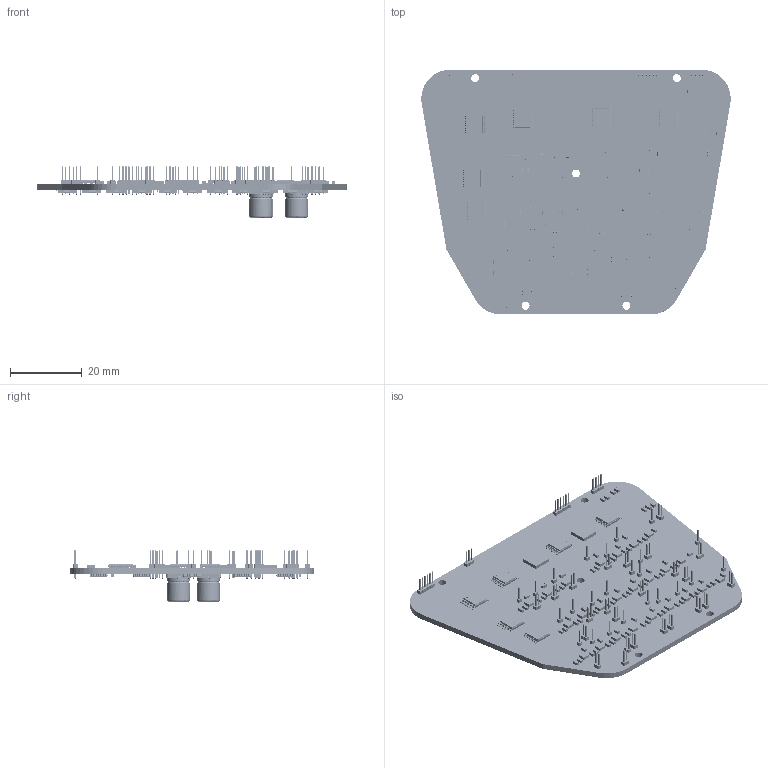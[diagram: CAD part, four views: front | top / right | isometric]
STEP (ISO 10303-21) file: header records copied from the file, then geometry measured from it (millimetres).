
FILE_DESCRIPTION(('KiCad electronic assembly'),'2;1');
FILE_NAME('Hand_Board.step','2026-09-02T08:43:39',('Pcbnew'),('Kicad'), 'Open CASCADE STEP processor 7.8','KiCad to STEP converter','Unknown' );
FILE_SCHEMA(('AUTOMOTIVE_DESIGN { 1 0 10303 214 1 1 1 1 }'));
Length unit declared in the file: millimetre
Products named in the file (24): Hand_Board 1; C_0603_1608Metric; PinHeader_1x02_P1.00mm_Vertical; PinHeader_1x02_P100mm_Vertical; PinHeader_1x01_P1.00mm_Vertical; PinHeader_1x01_P100mm_Vertical; DRV8231A; DSG0008A_ASM; PinHeader_1x06_P1.00mm_Vertical; PinHeader_1x06_P100mm_Vertical; TSSOP-16_4.4x5mm_P0.65mm; TSSOP_16_44x5mm_P065mm; RHB0032D; RHB0032D_ASM; PinHeader_1x03_P1.00mm_Vertical; PinHeader_1x03_P100mm_Vertical; PinHeader_1x04_P1.00mm_Vertical; PinHeader_1x04_P100mm_Vertical; TSSOP-14_4.4x5mm_P0.65mm; TSSOP_14_44x5mm_P065mm; CP_Elec_6.3x7.7; CP_Elec_63x77; _autosave-Hand_Board_PCB
Assembly tree (245 placements, depth 3):
  Hand_Board 1
    C_0603_1608Metric  x123
      C_0603_1608Metric
    PinHeader_1x02_P1.00mm_Vertical  x24
      PinHeader_1x02_P100mm_Vertical
    PinHeader_1x01_P1.00mm_Vertical  x24
      PinHeader_1x01_P100mm_Vertical
    DRV8231A  x24
      DSG0008A_ASM
    PinHeader_1x06_P1.00mm_Vertical  x2
      PinHeader_1x06_P100mm_Vertical
    TSSOP-16_4.4x5mm_P0.65mm  x6
      TSSOP_16_44x5mm_P065mm
    RHB0032D  x2
      RHB0032D_ASM
    PinHeader_1x03_P1.00mm_Vertical
      PinHeader_1x03_P100mm_Vertical
    PinHeader_1x04_P1.00mm_Vertical
      PinHeader_1x04_P100mm_Vertical
    TSSOP-14_4.4x5mm_P0.65mm  x22
      TSSOP_14_44x5mm_P065mm
    CP_Elec_6.3x7.7  x4
      CP_Elec_63x77
    _autosave-Hand_Board_PCB
Bounding box: 86 x 67.91 x 14.2 mm (x, y, z)
Volume: 9992.9 mm3; surface area: 16836.4 mm2
Topology: 524 solids, 524 shells, 17140 faces, 44106 edges, 28408 vertices
Faces by surface type: plane 12710, cylinder 3398, bspline 1012, torus 16, revolution 4
Full cylindrical faces by diameter (mm): 0.203 x10, 0.5 x119, 2.2 x5, 6.3 x8
Entity records: 58457 total; most frequent: CARTESIAN_POINT 9132, DIRECTION 8376, ORIENTED_EDGE 8314, EDGE_CURVE 4157, LINE 3457, VECTOR 3457, VERTEX_POINT 2673, AXIS2_PLACEMENT_3D 2459
